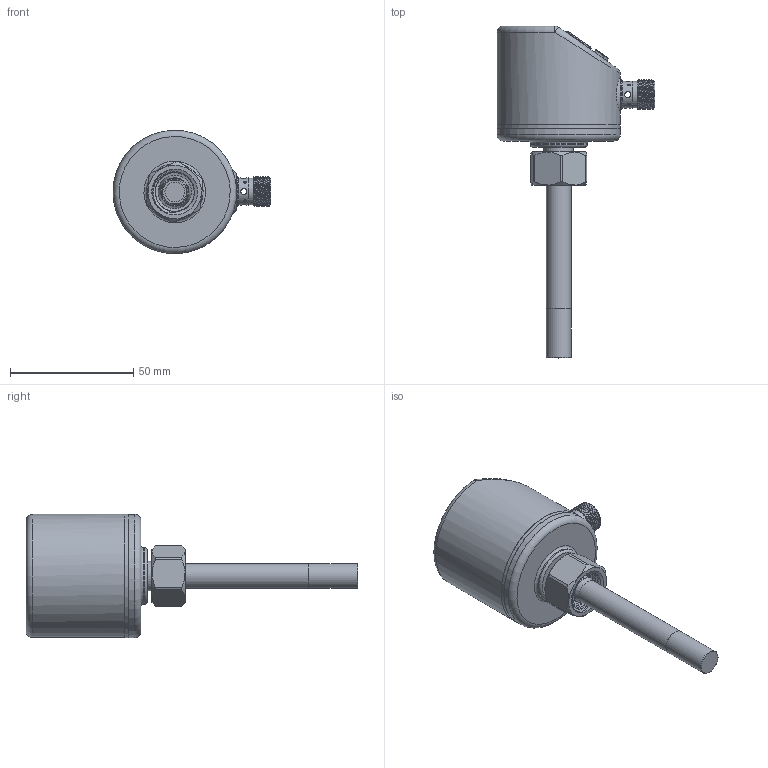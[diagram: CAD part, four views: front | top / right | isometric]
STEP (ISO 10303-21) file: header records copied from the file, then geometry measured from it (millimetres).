
FILE_DESCRIPTION (( 'STEP AP214' ), '1' );
FILE_NAME ('BFT2D8D-45.STEP', '2025-08-14T08:58:05', ( '' ), ( '' ), 'SwSTEP 2.0', 'SolidWorks 2023', '' );
FILE_SCHEMA (( 'AUTOMOTIVE_DESIGN' ));
Length unit declared in the file: millimetre
Products named in the file (11): 新连接螺母; PVC密封垫; BFT2D8D-45; 123; 探头; 按键帽; 压力显示罩; 防水接头壳体1; FL探头02-25; 压力上盖; 探头外螺纹G1-4
Assembly tree (12 placements, depth 3):
  BFT2D8D-45
    压力上盖
    压力显示罩
    防水接头壳体1
    按键帽  x3
    PVC密封垫
    探头外螺纹G1-4
    探头
      FL探头02-25
      新连接螺母
    123
Bounding box: 64 x 134.6 x 50 mm (x, y, z)
Volume: 26432.8 mm3; surface area: 34668.7 mm2
Topology: 11 solids, 11 shells, 328 faces, 750 edges, 489 vertices
Faces by surface type: plane 130, cylinder 120, cone 49, torus 14, bspline 11, sphere 4
Full cylindrical faces by diameter (mm): 1 x4, 1.2 x3, 1.8 x1, 2 x3, 2.5 x6, 2.8 x1, 4.3 x3, 4.5 x6, 7.2 x1, 8 x1, 8.5 x1, 8.95 x1, 9 x1, 9.75 x1, 10 x2, 10.5 x3, 10.7 x1, 10.8 x1, 10.9 x1, 11 x2, 11.96 x2, 12 x2, 12.5 x1, 13.5 x1, 15.7 x1, 18.2 x1, 23 x1, 44 x1, 45.6 x3, 48 x3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
Entity records: 12997 total; most frequent: CARTESIAN_POINT 6239, DIRECTION 1404, ORIENTED_EDGE 1106, AXIS2_PLACEMENT_3D 590, EDGE_CURVE 553, EDGE_LOOP 489, VERTEX_POINT 414, FACE_OUTER_BOUND 371
